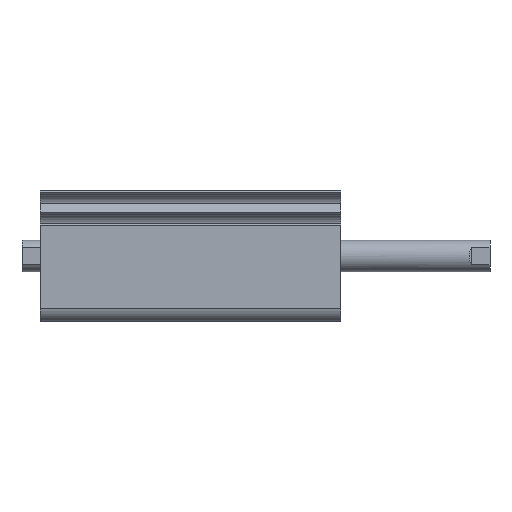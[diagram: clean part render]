
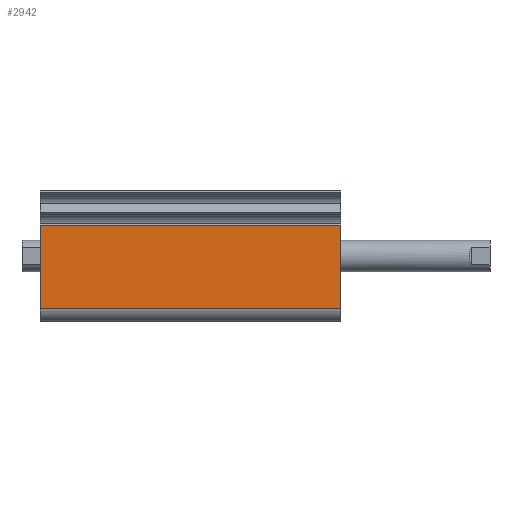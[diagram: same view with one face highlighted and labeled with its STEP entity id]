
A CAD part, top view. The second image highlights one B-rep face of the part: STEP entity #2942.
In plain terms, the highlighted planar face has unit normal (0, 0, 1).
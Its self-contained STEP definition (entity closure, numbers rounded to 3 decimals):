
#43 = CARTESIAN_POINT ( 'NONE',  ( 57.4, 5.885, 12.5 ) ) ;
#88 = VERTEX_POINT ( 'NONE', #2777 ) ;
#130 = DIRECTION ( 'NONE',  ( 0., -1., 0. ) ) ;
#140 = ORIENTED_EDGE ( 'NONE', *, *, #2595, .F. ) ;
#175 = EDGE_CURVE ( 'NONE', #3159, #745, #822, .T. ) ;
#285 = ORIENTED_EDGE ( 'NONE', *, *, #702, .T. ) ;
#339 = DIRECTION ( 'NONE',  ( -1., 0., 0. ) ) ;
#371 = FACE_OUTER_BOUND ( 'NONE', #995, .T. ) ;
#423 = DIRECTION ( 'NONE',  ( 0., -1., 0. ) ) ;
#463 = LINE ( 'NONE', #1774, #2982 ) ;
#702 = EDGE_CURVE ( 'NONE', #745, #984, #1640, .T. ) ;
#745 = VERTEX_POINT ( 'NONE', #2831 ) ;
#822 = LINE ( 'NONE', #853, #2644 ) ;
#835 = EDGE_CURVE ( 'NONE', #3159, #88, #3113, .T. ) ;
#840 = CARTESIAN_POINT ( 'NONE',  ( 57.4, 5.885, 12.5 ) ) ;
#853 = CARTESIAN_POINT ( 'NONE',  ( 57.4, 5.885, 12.5 ) ) ;
#919 = PLANE ( 'NONE',  #1497 ) ;
#984 = VERTEX_POINT ( 'NONE', #1992 ) ;
#995 = EDGE_LOOP ( 'NONE', ( #285, #140, #1230, #2676 ) ) ;
#1230 = ORIENTED_EDGE ( 'NONE', *, *, #835, .F. ) ;
#1261 = DIRECTION ( 'NONE',  ( -1., 0., 0. ) ) ;
#1380 = VECTOR ( 'NONE', #423, 1000. ) ;
#1432 = VECTOR ( 'NONE', #1851, 1000. ) ;
#1497 = AXIS2_PLACEMENT_3D ( 'NONE', #1927, #2940, #130 ) ;
#1640 = LINE ( 'NONE', #2936, #1380 ) ;
#1774 = CARTESIAN_POINT ( 'NONE',  ( 57.4, -10.069, 12.5 ) ) ;
#1851 = DIRECTION ( 'NONE',  ( 0., -1., 0. ) ) ;
#1927 = CARTESIAN_POINT ( 'NONE',  ( 57.4, 5.885, 12.5 ) ) ;
#1992 = CARTESIAN_POINT ( 'NONE',  ( 0., -10.069, 12.5 ) ) ;
#2595 = EDGE_CURVE ( 'NONE', #88, #984, #463, .T. ) ;
#2644 = VECTOR ( 'NONE', #339, 1000. ) ;
#2676 = ORIENTED_EDGE ( 'NONE', *, *, #175, .T. ) ;
#2777 = CARTESIAN_POINT ( 'NONE',  ( 57.4, -10.069, 12.5 ) ) ;
#2831 = CARTESIAN_POINT ( 'NONE',  ( 0., 5.885, 12.5 ) ) ;
#2936 = CARTESIAN_POINT ( 'NONE',  ( 0., 5.885, 12.5 ) ) ;
#2940 = DIRECTION ( 'NONE',  ( 0., 0., -1. ) ) ;
#2942 = ADVANCED_FACE ( 'NONE', ( #371 ), #919, .F. ) ;
#2982 = VECTOR ( 'NONE', #1261, 1000. ) ;
#3113 = LINE ( 'NONE', #840, #1432 ) ;
#3159 = VERTEX_POINT ( 'NONE', #43 ) ;
